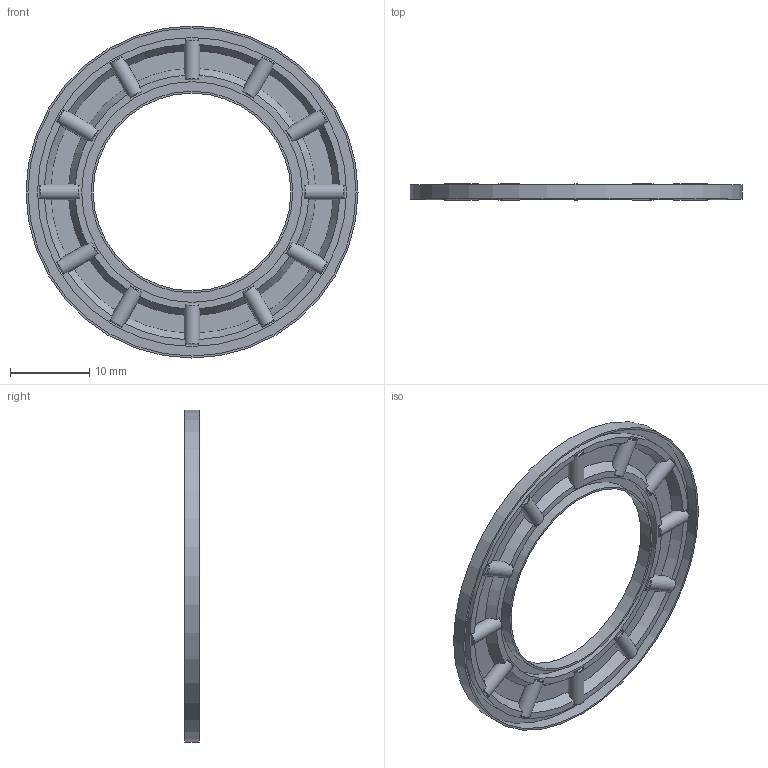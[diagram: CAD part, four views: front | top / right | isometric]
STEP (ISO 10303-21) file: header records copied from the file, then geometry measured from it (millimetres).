
FILE_DESCRIPTION(/* description */ (''),/* implementation_level */ '2;1');
FILE_NAME(/* name */ 'I:\Katalóg ihlovích ložísk\AXK---\AXK--\AXK2542.stp',/* time_stamp */ '2016-12-12T13:48:39+01:00',/* author */ ('OUBALASKO'),/* organization */ (''),/* preprocessor_version */ 'ST-DEVELOPER v15.6',/* originating_system */ 'Autodesk Inventor 2015',/* authorisation */ '');
FILE_SCHEMA (('AUTOMOTIVE_DESIGN { 1 0 10303 214 3 1 1 }'));
Length unit declared in the file: millimetre
Products named in the file (3): AXK2542-01; AXK2542-roller; AXK2542
Assembly tree (13 placements, depth 2):
  AXK2542
    AXK2542-01
    AXK2542-roller  x12
Bounding box: 42 x 2 x 42 mm (x, y, z)
Volume: 560.2 mm3; surface area: 3520.2 mm2
Topology: 13 solids, 13 shells, 231 faces, 632 edges, 409 vertices
Faces by surface type: plane 104, cylinder 55, cone 48, torus 24
Full cylindrical faces by diameter (mm): 2 x12, 25 x1, 25.5 x1, 27.9 x1, 28.4 x1, 39.1 x1, 41.5 x1, 42 x1
Entity records: 7258 total; most frequent: CARTESIAN_POINT 2242, ORIENTED_EDGE 1090, DIRECTION 1006, EDGE_CURVE 545, AXIS2_PLACEMENT_3D 389, VERTEX_POINT 365, LINE 228, VECTOR 228
